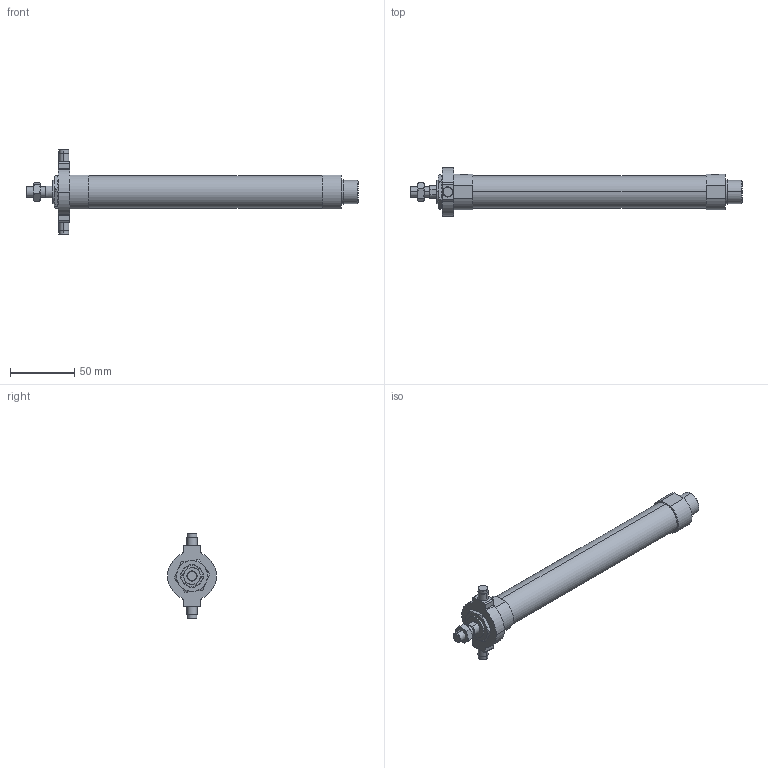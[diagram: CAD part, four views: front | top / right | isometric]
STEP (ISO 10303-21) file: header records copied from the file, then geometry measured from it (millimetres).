
FILE_DESCRIPTION (( 'STEP AP203' ), '1' );
FILE_NAME ('J#2-20-150-T.STEP', '2016-03-08T07:07:34', ( '' ), ( '' ), 'SwSTEP 2.0', 'SolidWorks 2014', '' );
FILE_SCHEMA (( 'CONFIG_CONTROL_DESIGN' ));
Length unit declared in the file: millimetre
Products named in the file (5): J#2-20-T; J#2-20-150-T; J#2-20-150
Assembly tree (4 placements, depth 2):
  J#2-20-150-T
    J#2-20-150
    (unnamed)
    (unnamed)
    J#2-20-T
Bounding box: 259 x 38 x 66 mm (x, y, z)
Volume: 124962.5 mm3; surface area: 26777.7 mm2
Topology: 4 solids, 4 shells, 131 faces, 291 edges, 180 vertices
Faces by surface type: cylinder 47, plane 46, torus 24, cone 14
Entity records: 4496 total; most frequent: CARTESIAN_POINT 1065, DIRECTION 639, ORIENTED_EDGE 582, EDGE_CURVE 291, AXIS2_PLACEMENT_3D 266, VERTEX_POINT 180, EDGE_LOOP 149, ADVANCED_FACE 131
